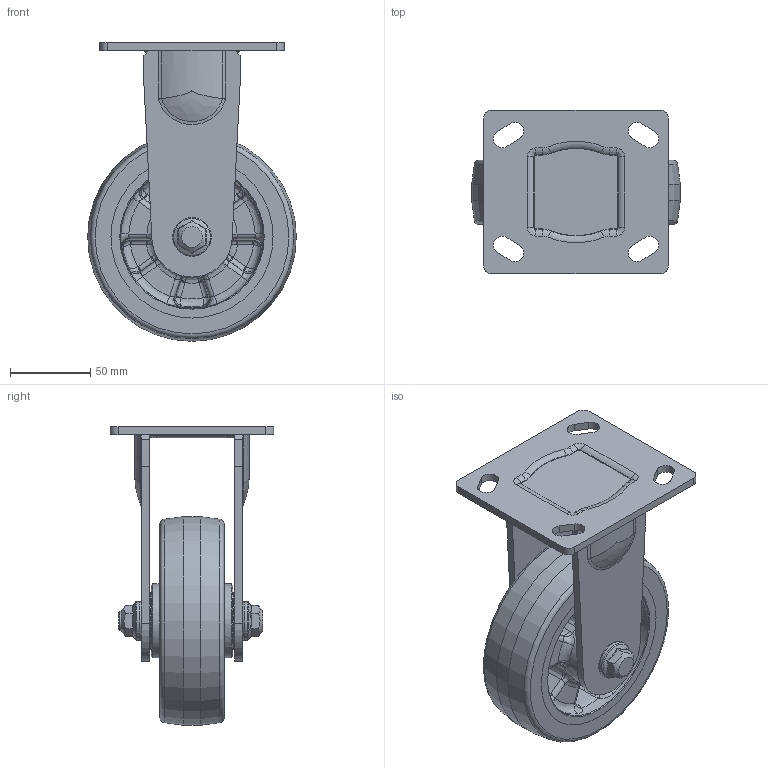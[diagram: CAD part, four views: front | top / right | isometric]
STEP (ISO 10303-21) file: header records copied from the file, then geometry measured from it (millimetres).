
FILE_DESCRIPTION((''),'2;1');
FILE_NAME('C:\Documents and Settings\Administrator\바탕 화면\3D STEP\GH-SERIES\GH-130\GH-130A-RF.stp','2010-12-27T14:25:06',('Administrator'),(''),'Autodesk Inventor 2009','Autodesk Inventor 2009','');
FILE_SCHEMA(('AUTOMOTIVE_DESIGN { 1 0 10303 214 1 1 1 1 }'));
Length unit declared in the file: millimetre
Products named in the file (1): GH-130A-RF
Bounding box: 130 x 102 x 186 mm (x, y, z)
Volume: 509531.2 mm3; surface area: 145467 mm2
Topology: 5 solids, 8 shells, 561 faces, 1398 edges, 825 vertices
Faces by surface type: bspline 269, plane 111, cylinder 102, cone 57, torus 22
Full cylindrical faces by diameter (mm): 12 x2, 15 x2, 15.2 x2, 21.5 x1, 24 x2, 30.5 x2, 35 x2, 35.18 x2, 130 x1
Entity records: 32868 total; most frequent: CARTESIAN_POINT 21266, ORIENTED_EDGE 2620, DIRECTION 2030, EDGE_CURVE 1310, AXIS2_PLACEMENT_3D 885, VERTEX_POINT 814, EDGE_LOOP 642, FACE_OUTER_BOUND 559
